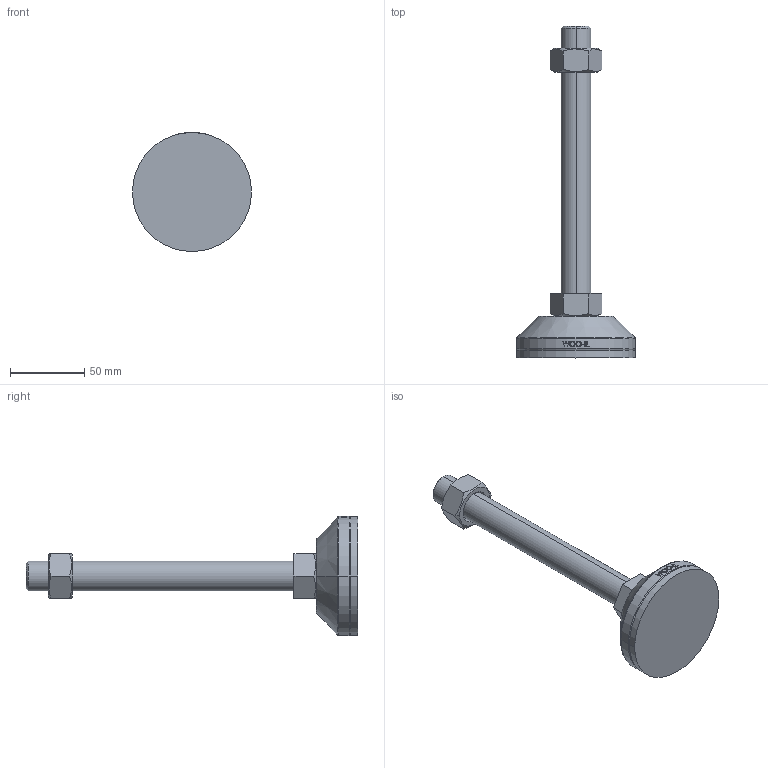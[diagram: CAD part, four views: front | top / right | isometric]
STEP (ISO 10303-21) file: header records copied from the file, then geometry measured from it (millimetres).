
FILE_DESCRIPTION (( 'STEP AP214' ), '1' );
FILE_NAME ('NHNR80-M20-180.step', '2021-01-25T06:22:36', ( '' ), ( '' ), 'SwSTEP 2.0', 'SolidWorks 2019', '' );
FILE_SCHEMA (( 'AUTOMOTIVE_DESIGN' ));
Length unit declared in the file: millimetre
Products named in the file (2): NHNR80-M20-180
Bounding box: 80 x 223 x 80 mm (x, y, z)
Volume: 191427.6 mm3; surface area: 42574.6 mm2
Topology: 4 solids, 4 shells, 105 faces, 239 edges, 152 vertices
Faces by surface type: plane 49, cylinder 18, bspline 16, cone 14, torus 8
Entity records: 4375 total; most frequent: CARTESIAN_POINT 2058, ORIENTED_EDGE 478, DIRECTION 429, EDGE_CURVE 239, AXIS2_PLACEMENT_3D 165, VERTEX_POINT 152, EDGE_LOOP 117, FACE_OUTER_BOUND 105
